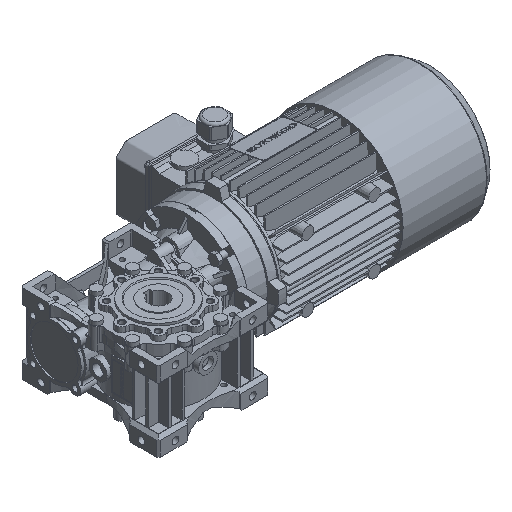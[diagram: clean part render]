
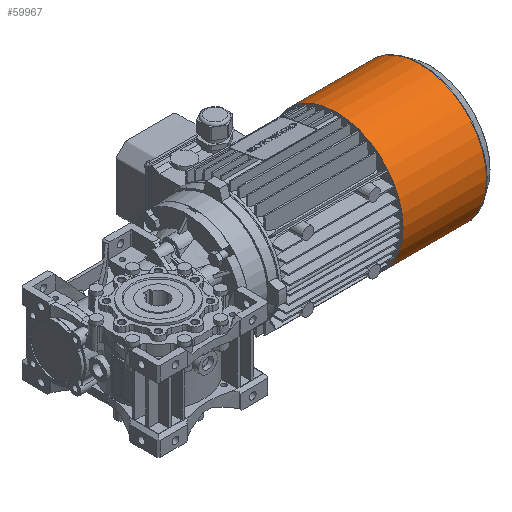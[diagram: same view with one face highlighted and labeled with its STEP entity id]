
A CAD part, isometric view. The second image highlights one B-rep face of the part: STEP entity #59967.
In plain terms, the highlighted cylindrical face has radius 86.45 mm (diameter 172.9 mm), a full revolution.
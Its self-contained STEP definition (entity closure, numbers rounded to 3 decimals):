
#20246=ORIENTED_EDGE('',*,*,#34993,.F.);
#20247=ORIENTED_EDGE('',*,*,#34992,.T.);
#34992=EDGE_CURVE('',#42948,#42948,#48139,.T.);
#34993=EDGE_CURVE('',#42949,#42949,#48140,.T.);
#42948=VERTEX_POINT('',#113894);
#42949=VERTEX_POINT('',#113897);
#48139=CIRCLE('',#84351,86.45);
#48140=CIRCLE('',#84353,86.45);
#51104=EDGE_LOOP('',(#20246));
#51105=EDGE_LOOP('',(#20247));
#54932=FACE_BOUND('',#51104,.T.);
#54933=FACE_BOUND('',#51105,.T.);
#58125=CYLINDRICAL_SURFACE('',#84352,86.45);
#59967=ADVANCED_FACE('',(#54932,#54933),#58125,.T.);
#84351=AXIS2_PLACEMENT_3D('',#113893,#95544,#95545);
#84352=AXIS2_PLACEMENT_3D('',#113895,#95546,#95547);
#84353=AXIS2_PLACEMENT_3D('',#113896,#95548,#95549);
#95544=DIRECTION('',(1.,0.,0.));
#95545=DIRECTION('',(0.,0.,-1.));
#95546=DIRECTION('',(1.,0.,0.));
#95547=DIRECTION('',(0.,0.,-1.));
#95548=DIRECTION('',(1.,0.,0.));
#95549=DIRECTION('',(0.,0.,-1.));
#113893=CARTESIAN_POINT('',(0.,0.,0.));
#113894=CARTESIAN_POINT('',(0.,0.,-86.45));
#113895=CARTESIAN_POINT('',(122.,0.,0.));
#113896=CARTESIAN_POINT('',(107.873,0.,0.));
#113897=CARTESIAN_POINT('',(107.873,0.,-86.45));
